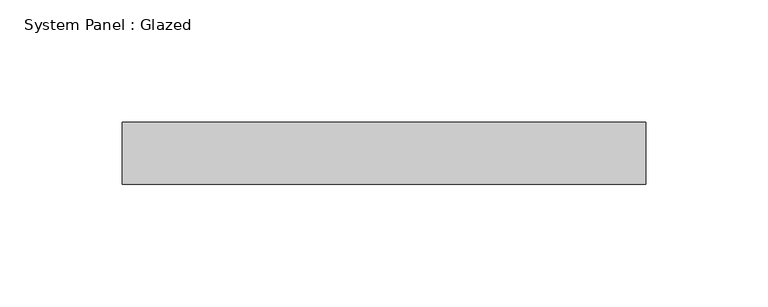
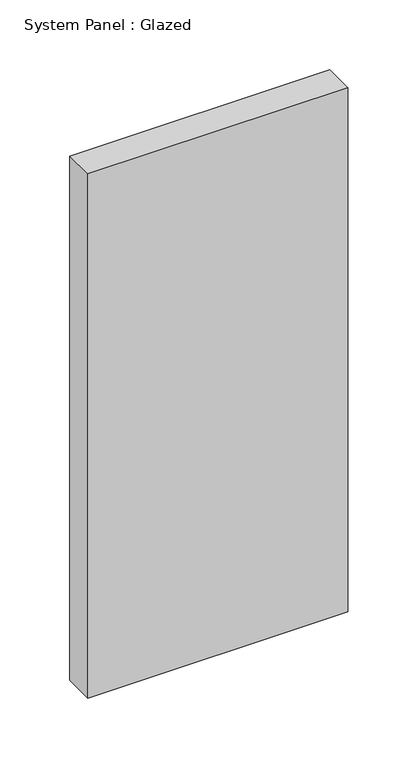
"""IFC4 building model written with IfcOpenShell, lengths in millimetres: plate geometry, System Panel : Glazed."""

import ifcopenshell
import ifcopenshell.guid

model = None  # the IFC model being written
_history = None  # IfcOwnerHistory: only IFC2X3 demands one
_inside = {}  # id of a spatial element -> (the spatial element, [elements in it])
_under = {}  # id of a project, library or spatial element -> (it, [spatial elements below it])
_declared = {}  # id of a project -> (the project, [libraries it declares])
_typed = {}  # id of a type object -> (the type object, [elements of that type])
_made_of = {}  # id of a material, layer set ... -> (it, [elements and type objects made of it])


def new_model(schema):
    """Start an empty IFC model of exactly this schema.

    Asked for "IFC4X3", IfcOpenShell would pick the latest addendum, in which some entities
    have other attributes; the version numbers below select the first issue.
    IFC2X3 requires an IfcOwnerHistory on every rooted entity: one is made here for all.
    """
    global model, _history
    if schema == "IFC4X3":
        model = ifcopenshell.file(schema_version=(4, 3, 0, 0))
    else:
        model = ifcopenshell.file(schema=schema)
    _inside.clear()
    _under.clear()
    _declared.clear()
    _typed.clear()
    _made_of.clear()
    _history = None
    if model.schema == "IFC2X3":
        org = make("IfcOrganization", Name="unknown")
        user = make(
            "IfcPersonAndOrganization",
            ThePerson=make("IfcPerson", FamilyName="unknown"),
            TheOrganization=org,
        )
        app = make(
            "IfcApplication",
            ApplicationDeveloper=org,
            Version="unknown",
            ApplicationFullName="unknown",
            ApplicationIdentifier="unknown",
        )
        _history = make(
            "IfcOwnerHistory",
            OwningUser=user,
            OwningApplication=app,
            ChangeAction="ADDED",
            CreationDate=0,
        )
    return model


def make(cls, **values):
    """One entity of the class cls with the attributes given. An attribute that is None is left unset."""
    return model.create_entity(
        cls, **{name: value for name, value in values.items() if value is not None}
    )


def rooted(cls, **values):
    """An entity with a GlobalId (a new one), such as an element, a storey or a relation."""
    return make(cls, GlobalId=ifcopenshell.guid.new(), OwnerHistory=_history, **values)


def si_unit(unit_type, name, prefix=None):
    """IfcSIUnit, for example si_unit("LENGTHUNIT", "METRE", prefix="MILLI")."""
    return make("IfcSIUnit", UnitType=unit_type, Prefix=prefix, Name=name)


def assignment(units):
    """IfcUnitAssignment: the units of a project."""
    return None if units is None else make("IfcUnitAssignment", Units=units)


def point(xyz):
    """IfcCartesianPoint."""
    return None if xyz is None else make("IfcCartesianPoint", Coordinates=xyz)


def direction(xyz):
    """IfcDirection."""
    return None if xyz is None else make("IfcDirection", DirectionRatios=xyz)


def frame(location, z_axis=None, x_axis=None):
    """IfcAxis2Placement3D, a coordinate frame: its origin and axes. An axis left out is left unset."""
    return make(
        "IfcAxis2Placement3D",
        Location=point(location),
        Axis=direction(z_axis),
        RefDirection=direction(x_axis),
    )


def origin():
    """The frame at (0, 0, 0) with its axes left unset."""
    return frame((0.0, 0.0, 0.0))


def origin_with_axes():
    """The frame at (0, 0, 0) with the z axis (0, 0, 1) and the x axis (1, 0, 0) written out."""
    return frame((0.0, 0.0, 0.0), z_axis=(0.0, 0.0, 1.0), x_axis=(1.0, 0.0, 0.0))


def place(relative_to, where):
    """IfcLocalPlacement: puts the frame where relative to a parent placement (None: the world)."""
    return make(
        "IfcLocalPlacement", PlacementRelTo=relative_to, RelativePlacement=where
    )


def context(
    kind, dimensions, precision=None, world=None, true_north=None, identifier=None
):
    """IfcGeometricRepresentationContext, for example the 3D "Model" context."""
    return make(
        "IfcGeometricRepresentationContext",
        ContextIdentifier=identifier,
        ContextType=kind,
        CoordinateSpaceDimension=dimensions,
        Precision=precision,
        WorldCoordinateSystem=world,
        TrueNorth=true_north,
    )


def project(units=None, contexts=None):
    """IfcProject with its units and contexts."""
    return rooted(
        "IfcProject",
        Name="project",
        RepresentationContexts=contexts,
        UnitsInContext=assignment(units),
    )


def spatial(cls, under=None, at=None, **own):
    """A site, building, storey or space (cls), placed at a placement, below another one or the project."""
    s = rooted(cls, ObjectPlacement=at, **own)
    if under is not None:
        _under.setdefault(under.id(), (under, []))[1].append(s)
    return s


def polyline(points):
    """IfcPolyline through the points."""
    return make("IfcPolyline", Points=[point(p) for p in points])


def outline(outer, holes=None, kind="AREA"):
    """IfcArbitraryClosedProfileDef: a profile drawn as a closed curve; with holes, ...WithVoids."""
    if holes is None:
        return make("IfcArbitraryClosedProfileDef", ProfileType=kind, OuterCurve=outer)
    return make(
        "IfcArbitraryProfileDefWithVoids",
        ProfileType=kind,
        OuterCurve=outer,
        InnerCurves=holes,
    )


def extrude(swept, where, along, depth):
    """IfcExtrudedAreaSolid: the profile swept, set in the frame where, extruded along a direction by depth."""
    return make(
        "IfcExtrudedAreaSolid",
        SweptArea=swept,
        Position=where,
        ExtrudedDirection=direction(along),
        Depth=depth,
    )


def shape(context_of_items, identifier, shape_type, items):
    """IfcShapeRepresentation: the items that make up one representation, for example the "Body"."""
    return make(
        "IfcShapeRepresentation",
        ContextOfItems=context_of_items,
        RepresentationIdentifier=identifier,
        RepresentationType=shape_type,
        Items=items,
    )


def source(mapping_origin, context_of_items, identifier, shape_type, items):
    """IfcRepresentationMap: a shape defined once, which mapped items show again and again."""
    return make(
        "IfcRepresentationMap",
        MappingOrigin=mapping_origin,
        MappedRepresentation=shape(context_of_items, identifier, shape_type, items),
    )


def transform(
    local_origin,
    x_axis=None,
    y_axis=None,
    z_axis=None,
    scale=None,
    scale2=None,
    scale3=None,
    uniform=True,
):
    """IfcCartesianTransformationOperator3D, or its non-uniform kind. x_axis, y_axis, z_axis: its Axis1, 2, 3."""
    if uniform:
        return make(
            "IfcCartesianTransformationOperator3D",
            Axis1=direction(x_axis),
            Axis2=direction(y_axis),
            LocalOrigin=point(local_origin),
            Scale=scale,
            Axis3=direction(z_axis),
        )
    return make(
        "IfcCartesianTransformationOperator3DnonUniform",
        Axis1=direction(x_axis),
        Axis2=direction(y_axis),
        LocalOrigin=point(local_origin),
        Scale=scale,
        Axis3=direction(z_axis),
        Scale2=scale2,
        Scale3=scale3,
    )


def mapped(mapping_source, mapping_target):
    """IfcMappedItem: shows the shape of a source again, moved by a transform."""
    return make(
        "IfcMappedItem", MappingSource=mapping_source, MappingTarget=mapping_target
    )


def made_of(thing, what):
    """Note that an element or type object is made of a material, layer set ...; save() writes the relation."""
    if what is not None:
        _made_of.setdefault(what.id(), (what, []))[1].append(thing)
    return thing


def element(
    cls,
    number,
    at=None,
    inside=None,
    cuts=None,
    type_object=None,
    material=None,
    context=None,
    identifier="Body",
    shape_type=None,
    held_by="IfcProductDefinitionShape",
    body=None,
    shapes=None,
    **own,
):
    """One element of the class cls, such as IfcWall. Its Tag is "e" and its number.

    at: its placement. inside: the storey or other place that contains it. cuts: it is an
    opening in that element (IfcRelVoidsElement). A single representation is given by context,
    identifier, shape_type and body (its items); several are given by shapes. held_by: the class
    of the entity that holds the representations. save() writes the other relations.
    """
    e = rooted(cls, Tag="e%d" % number, ObjectPlacement=at, **own)
    if body is not None:
        shapes = [shape(context, identifier, shape_type, body)]
    if shapes is not None:
        e.Representation = make(held_by, Representations=shapes)
    if inside is not None:
        _inside.setdefault(inside.id(), (inside, []))[1].append(e)
    if cuts is not None:
        rooted(
            "IfcRelVoidsElement", RelatingBuildingElement=cuts, RelatedOpeningElement=e
        )
    if type_object is not None:
        _typed.setdefault(type_object.id(), (type_object, []))[1].append(e)
    return made_of(e, material)


def aggregate(whole, parts):
    """IfcRelAggregates: a whole, such as a stair, and the parts it consists of."""
    return rooted("IfcRelAggregates", RelatingObject=whole, RelatedObjects=parts)


def save(model, path):
    """Write the relations noted so far, then the file.

    IfcRelAggregates (storeys below a building ...), IfcRelContainedInSpatialStructure (elements
    in a storey), IfcRelDefinesByType, IfcRelAssociatesMaterial and IfcRelDeclares: one each for
    every whole, place, type object, material and project.
    """
    for whole, parts in _under.values():
        aggregate(whole, parts)
    for where, things in _inside.values():
        rooted(
            "IfcRelContainedInSpatialStructure",
            RelatedElements=things,
            RelatingStructure=where,
        )
    for kind, things in _typed.values():
        rooted("IfcRelDefinesByType", RelatedObjects=things, RelatingType=kind)
    for what, things in _made_of.values():
        rooted("IfcRelAssociatesMaterial", RelatedObjects=things, RelatingMaterial=what)
    for by, libraries in _declared.values():
        rooted("IfcRelDeclares", RelatingContext=by, RelatedDefinitions=libraries)
    model.write(path)


def system_panel_glazed_96186606(model_context):
    return source(origin(), model_context, "Body", "SweptSolid", [
        extrude(outline(polyline([(107.2013686, -44.45), (-107.2013686, -44.45), (-107.2013686, -19.05), (107.2013686, -19.05), (107.2013686, -44.45)])), origin_with_axes(), (0.0, 0.0, 1.0), 457.2),
    ])


if __name__ == "__main__":
    model = new_model("IFC4")
    model_context = context("Model", 3, world=origin())
    ifc_project = project(units=[si_unit("LENGTHUNIT", "METRE", prefix="MILLI")], contexts=[model_context])
    site = spatial("IfcSite", under=ifc_project)
    building = spatial("IfcBuilding", under=site)
    placement = place(None, origin())
    system_panel_glazed_shape = system_panel_glazed_96186606(model_context)
    element("IfcPlate", 1, ObjectType="System Panel : Glazed", at=placement, inside=building, context=model_context, shape_type="MappedRepresentation", body=[
        mapped(system_panel_glazed_shape, transform((0.0, 0.0, 0.0), x_axis=(1.0, 0.0, 0.0), y_axis=(0.0, 1.0, 0.0), z_axis=(0.0, 0.0, 1.0))),
    ])
    save(model, "model.ifc")
